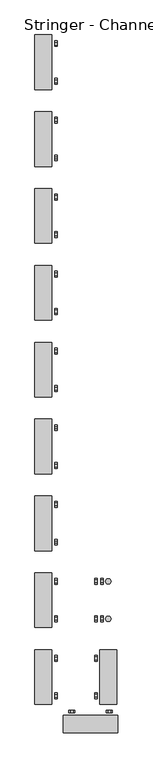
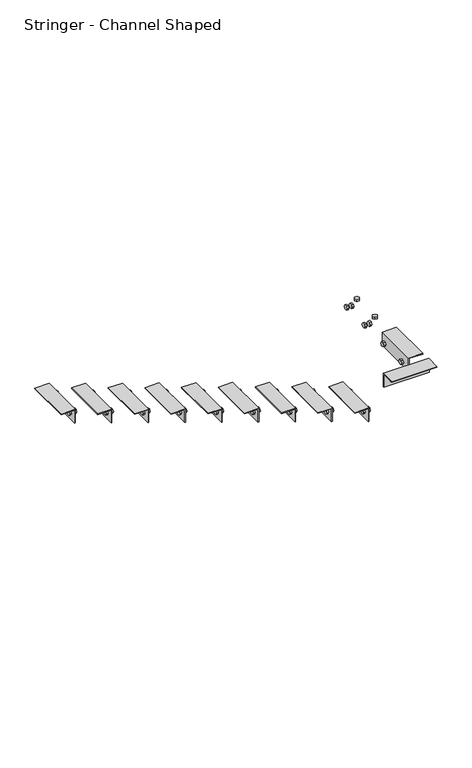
"""IFC4 building model written with IfcOpenShell, lengths in millimetres: railing geometry, Stringer - Channel Shaped."""

from ifc_helpers import new_model, si_unit, frame, origin, place, context, project, spatial, polyline, outline, extrude, source, transform, mapped, element, save


def stringer_channel_shaped_80cb6676(model_context):
    return source(origin(), model_context, "Body", "SweptSolid", [
        extrude(outline(polyline([(-3480.8368266, 3578.225), (-3486.3360879, 3568.7), (-3497.3346105, 3568.7), (-3502.8338718, 3578.225), (-3497.3346105, 3587.75), (-3486.3360879, 3587.75), (-3480.8368266, 3578.225)])), frame((-35055.628433, 0.0, 0.0), z_axis=(1.0, 0.0, 0.0), x_axis=(0.0, 1.0, 0.0)), (0.0, 0.0, 1.0), 9.525),
        extrude(outline(polyline([(-3341.1368266, 3578.225), (-3346.6360879, 3568.7), (-3357.6346105, 3568.7), (-3363.1338718, 3578.225), (-3357.6346105, 3587.75), (-3346.6360879, 3587.75), (-3341.1368266, 3578.225)])), frame((-35055.628433, 0.0, 0.0), z_axis=(1.0, 0.0, 0.0), x_axis=(0.0, 1.0, 0.0)), (0.0, 0.0, 1.0), 9.525),
        extrude(outline(polyline([(-3480.8368266, 3578.225), (-3486.3360879, 3568.7), (-3497.3346105, 3568.7), (-3502.8338718, 3578.225), (-3497.3346105, 3587.75), (-3486.3360879, 3587.75), (-3480.8368266, 3578.225)])), frame((-35033.403433, 0.0, 0.0), z_axis=(1.0, 0.0, 0.0), x_axis=(0.0, 1.0, 0.0)), (0.0, 0.0, 1.0), 9.525),
        extrude(outline(polyline([(-3341.1368266, 3578.225), (-3346.6360879, 3568.7), (-3357.6346105, 3568.7), (-3363.1338718, 3578.225), (-3357.6346105, 3587.75), (-3346.6360879, 3587.75), (-3341.1368266, 3578.225)])), frame((-35033.403433, 0.0, 0.0), z_axis=(1.0, 0.0, 0.0), x_axis=(0.0, 1.0, 0.0)), (0.0, 0.0, 1.0), 9.525),
        extrude(outline(polyline([(-35015.8269556, -3491.8353492), (-35010.3276943, -3482.3103492), (-34999.3291717, -3482.3103492), (-34993.8299104, -3491.8353492), (-34999.3291717, -3501.3603492), (-35010.3276943, -3501.3603492), (-35015.8269556, -3491.8353492)])), frame((0.0, 0.0, 3597.275), z_axis=(0.0, 0.0, 1.0), x_axis=(1.0, 0.0, 0.0)), (0.0, 0.0, 1.0), 9.525),
        extrude(outline(polyline([(-35015.8269556, -3352.1353492), (-35010.3276943, -3342.6103492), (-34999.3291717, -3342.6103492), (-34993.8299104, -3352.1353492), (-34999.3291717, -3361.6603492), (-35010.3276943, -3361.6603492), (-35015.8269556, -3352.1353492)])), frame((0.0, 0.0, 3597.275), z_axis=(0.0, 0.0, 1.0), x_axis=(1.0, 0.0, 0.0)), (0.0, 0.0, 1.0), 9.525),
        extrude(outline(polyline([(3546.475, -35033.403433), (3606.8, -35033.403433), (3606.8, -34973.078433), (3609.975, -34973.078433), (3609.975, -35036.578433), (3546.475, -35036.578433), (3546.475, -35033.403433)])), frame((0.0, -3809.3353492, 0.0), z_axis=(0.0, 1.0, 0.0), x_axis=(0.0, 0.0, 1.0)), (0.0, 0.0, 1.0), 203.2),
        extrude(outline(polyline([(-3766.5868266, 3578.225), (-3772.0860879, 3568.7), (-3783.0846105, 3568.7), (-3788.5838718, 3578.225), (-3783.0846105, 3587.75), (-3772.0860879, 3587.75), (-3766.5868266, 3578.225)])), frame((-35055.628433, 0.0, 0.0), z_axis=(1.0, 0.0, 0.0), x_axis=(0.0, 1.0, 0.0)), (0.0, 0.0, 1.0), 9.525),
        extrude(outline(polyline([(-3626.8868266, 3578.225), (-3632.3860879, 3568.7), (-3643.3846105, 3568.7), (-3648.8838718, 3578.225), (-3643.3846105, 3587.75), (-3632.3860879, 3587.75), (-3626.8868266, 3578.225)])), frame((-35055.628433, 0.0, 0.0), z_axis=(1.0, 0.0, 0.0), x_axis=(0.0, 1.0, 0.0)), (0.0, 0.0, 1.0), 9.525),
        extrude(outline(polyline([(-3766.5868266, 3578.225), (-3772.0860879, 3568.7), (-3783.0846105, 3568.7), (-3788.5838718, 3578.225), (-3783.0846105, 3587.75), (-3772.0860879, 3587.75), (-3766.5868266, 3578.225)])), frame((-35033.403433, 0.0, 0.0), z_axis=(1.0, 0.0, 0.0), x_axis=(0.0, 1.0, 0.0)), (0.0, 0.0, 1.0), 9.525),
        extrude(outline(polyline([(-3626.8868266, 3578.225), (-3632.3860879, 3568.7), (-3643.3846105, 3568.7), (-3648.8838718, 3578.225), (-3643.3846105, 3587.75), (-3632.3860879, 3587.75), (-3626.8868266, 3578.225)])), frame((-35033.403433, 0.0, 0.0), z_axis=(1.0, 0.0, 0.0), x_axis=(0.0, 1.0, 0.0)), (0.0, 0.0, 1.0), 9.525),
        extrude(outline(polyline([(-35015.8269556, -3777.5853492), (-35010.3276943, -3768.0603492), (-34999.3291717, -3768.0603492), (-34993.8299104, -3777.5853492), (-34999.3291717, -3787.1103492), (-35010.3276943, -3787.1103492), (-35015.8269556, -3777.5853492)])), frame((0.0, 0.0, 3597.275), z_axis=(0.0, 0.0, 1.0), x_axis=(1.0, 0.0, 0.0)), (0.0, 0.0, 1.0), 9.525),
        extrude(outline(polyline([(-35015.8269556, -3637.8853492), (-35010.3276943, -3628.3603492), (-34999.3291717, -3628.3603492), (-34993.8299104, -3637.8853492), (-34999.3291717, -3647.4103492), (-35010.3276943, -3647.4103492), (-35015.8269556, -3637.8853492)])), frame((0.0, 0.0, 3597.275), z_axis=(0.0, 0.0, 1.0), x_axis=(1.0, 0.0, 0.0)), (0.0, 0.0, 1.0), 9.525),
        extrude(outline(polyline([(-3853.7853492, 3546.475), (-3853.7853492, 3606.8), (-3914.1103492, 3606.8), (-3914.1103492, 3609.975), (-3850.6103492, 3609.975), (-3850.6103492, 3546.475), (-3853.7853492, 3546.475)])), frame((-35173.103433, 0.0, 0.0), z_axis=(1.0, 0.0, 0.0), x_axis=(0.0, 1.0, 0.0)), (0.0, 0.0, 1.0), 203.2),
        extrude(outline(polyline([(3578.225, -35130.3549104), (3587.75, -35135.8541717), (3587.75, -35146.8526943), (3578.225, -35152.3519556), (3568.7, -35146.8526943), (3568.7, -35135.8541717), (3578.225, -35130.3549104)])), frame((0.0, -3841.0853492, 0.0), z_axis=(0.0, 1.0, 0.0), x_axis=(0.0, 0.0, 1.0)), (0.0, 0.0, 1.0), 9.525),
        extrude(outline(polyline([(3578.225, -34990.6549104), (3587.75, -34996.1541717), (3587.75, -35007.1526943), (3578.225, -35012.6519556), (3568.7, -35007.1526943), (3568.7, -34996.1541717), (3578.225, -34990.6549104)])), frame((0.0, -3841.0853492, 0.0), z_axis=(0.0, 1.0, 0.0), x_axis=(0.0, 0.0, 1.0)), (0.0, 0.0, 1.0), 9.525),
        extrude(outline(polyline([(3578.225, -35130.3549104), (3587.75, -35135.8541717), (3587.75, -35146.8526943), (3578.225, -35152.3519556), (3568.7, -35146.8526943), (3568.7, -35135.8541717), (3578.225, -35130.3549104)])), frame((0.0, -3863.3103492, 0.0), z_axis=(0.0, 1.0, 0.0), x_axis=(0.0, 0.0, 1.0)), (0.0, 0.0, 1.0), 9.525),
        extrude(outline(polyline([(3578.225, -34990.6549104), (3587.75, -34996.1541717), (3587.75, -35007.1526943), (3578.225, -35012.6519556), (3568.7, -35007.1526943), (3568.7, -34996.1541717), (3578.225, -34990.6549104)])), frame((0.0, -3863.3103492, 0.0), z_axis=(0.0, 1.0, 0.0), x_axis=(0.0, 0.0, 1.0)), (0.0, 0.0, 1.0), 9.525),
        extrude(outline(polyline([(-35141.353433, -3871.3618266), (-35131.828433, -3876.8610879), (-35131.828433, -3887.8596105), (-35141.353433, -3893.3588718), (-35150.878433, -3887.8596105), (-35150.878433, -3876.8610879), (-35141.353433, -3871.3618266)])), frame((0.0, 0.0, 3597.275), z_axis=(0.0, 0.0, 1.0), x_axis=(1.0, 0.0, 0.0)), (0.0, 0.0, 1.0), 9.525),
        extrude(outline(polyline([(-35001.653433, -3871.3618266), (-34992.128433, -3876.8610879), (-34992.128433, -3887.8596105), (-35001.653433, -3893.3588718), (-35011.178433, -3887.8596105), (-35011.178433, -3876.8610879), (-35001.653433, -3871.3618266)])), frame((0.0, 0.0, 3597.275), z_axis=(0.0, 0.0, 1.0), x_axis=(1.0, 0.0, 0.0)), (0.0, 0.0, 1.0), 9.525),
        extrude(outline(polyline([(3372.3035714, -35214.378433), (3435.8035714, -35214.378433), (3435.8035714, -35277.878433), (3432.6285714, -35277.878433), (3432.6285714, -35217.553433), (3372.3035714, -35217.553433), (3372.3035714, -35214.378433)])), frame((0.0, -3809.3353492, 0.0), z_axis=(0.0, 1.0, 0.0), x_axis=(0.0, 0.0, 1.0)), (0.0, 0.0, 1.0), 203.2),
        extrude(outline(polyline([(-3648.8838718, 3404.0535714), (-3643.3846105, 3413.5785714), (-3632.3860879, 3413.5785714), (-3626.8868266, 3404.0535714), (-3632.3860879, 3394.5285714), (-3643.3846105, 3394.5285714), (-3648.8838718, 3404.0535714)])), frame((-35204.853433, 0.0, 0.0), z_axis=(1.0, 0.0, 0.0), x_axis=(0.0, 1.0, 0.0)), (0.0, 0.0, 1.0), 9.525),
        extrude(outline(polyline([(-3788.5838718, 3404.0535714), (-3783.0846105, 3413.5785714), (-3772.0860879, 3413.5785714), (-3766.5868266, 3404.0535714), (-3772.0860879, 3394.5285714), (-3783.0846105, 3394.5285714), (-3788.5838718, 3404.0535714)])), frame((-35204.853433, 0.0, 0.0), z_axis=(1.0, 0.0, 0.0), x_axis=(0.0, 1.0, 0.0)), (0.0, 0.0, 1.0), 9.525),
        extrude(outline(polyline([(-3648.8838718, 3404.0535714), (-3643.3846105, 3413.5785714), (-3632.3860879, 3413.5785714), (-3626.8868266, 3404.0535714), (-3632.3860879, 3394.5285714), (-3643.3846105, 3394.5285714), (-3648.8838718, 3404.0535714)])), frame((-35227.078433, 0.0, 0.0), z_axis=(1.0, 0.0, 0.0), x_axis=(0.0, 1.0, 0.0)), (0.0, 0.0, 1.0), 9.525),
        extrude(outline(polyline([(-3788.5838718, 3404.0535714), (-3783.0846105, 3413.5785714), (-3772.0860879, 3413.5785714), (-3766.5868266, 3404.0535714), (-3772.0860879, 3394.5285714), (-3783.0846105, 3394.5285714), (-3788.5838718, 3404.0535714)])), frame((-35227.078433, 0.0, 0.0), z_axis=(1.0, 0.0, 0.0), x_axis=(0.0, 1.0, 0.0)), (0.0, 0.0, 1.0), 9.525),
        extrude(outline(polyline([(-35235.1299104, -3637.8853492), (-35240.6291717, -3647.4103492), (-35251.6276943, -3647.4103492), (-35257.1269556, -3637.8853492), (-35251.6276943, -3628.3603492), (-35240.6291717, -3628.3603492), (-35235.1299104, -3637.8853492)])), frame((0.0, 0.0, 3423.1035714), z_axis=(0.0, 0.0, 1.0), x_axis=(1.0, 0.0, 0.0)), (0.0, 0.0, 1.0), 9.525),
        extrude(outline(polyline([(-35235.1299104, -3777.5853492), (-35240.6291717, -3787.1103492), (-35251.6276943, -3787.1103492), (-35257.1269556, -3777.5853492), (-35251.6276943, -3768.0603492), (-35240.6291717, -3768.0603492), (-35235.1299104, -3777.5853492)])), frame((0.0, 0.0, 3423.1035714), z_axis=(0.0, 0.0, 1.0), x_axis=(1.0, 0.0, 0.0)), (0.0, 0.0, 1.0), 9.525),
        extrude(outline(polyline([(3198.1321429, -35214.378433), (3261.6321429, -35214.378433), (3261.6321429, -35277.878433), (3258.4571429, -35277.878433), (3258.4571429, -35217.553433), (3198.1321429, -35217.553433), (3198.1321429, -35214.378433)])), frame((0.0, -3523.5853492, 0.0), z_axis=(0.0, 1.0, 0.0), x_axis=(0.0, 0.0, 1.0)), (0.0, 0.0, 1.0), 203.2),
        extrude(outline(polyline([(-3363.1338718, 3229.8821429), (-3357.6346105, 3239.4071429), (-3346.6360879, 3239.4071429), (-3341.1368266, 3229.8821429), (-3346.6360879, 3220.3571429), (-3357.6346105, 3220.3571429), (-3363.1338718, 3229.8821429)])), frame((-35204.853433, 0.0, 0.0), z_axis=(1.0, 0.0, 0.0), x_axis=(0.0, 1.0, 0.0)), (0.0, 0.0, 1.0), 9.525),
        extrude(outline(polyline([(-3502.8338718, 3229.8821429), (-3497.3346105, 3239.4071429), (-3486.3360879, 3239.4071429), (-3480.8368266, 3229.8821429), (-3486.3360879, 3220.3571429), (-3497.3346105, 3220.3571429), (-3502.8338718, 3229.8821429)])), frame((-35204.853433, 0.0, 0.0), z_axis=(1.0, 0.0, 0.0), x_axis=(0.0, 1.0, 0.0)), (0.0, 0.0, 1.0), 9.525),
        extrude(outline(polyline([(-3363.1338718, 3229.8821429), (-3357.6346105, 3239.4071429), (-3346.6360879, 3239.4071429), (-3341.1368266, 3229.8821429), (-3346.6360879, 3220.3571429), (-3357.6346105, 3220.3571429), (-3363.1338718, 3229.8821429)])), frame((-35227.078433, 0.0, 0.0), z_axis=(1.0, 0.0, 0.0), x_axis=(0.0, 1.0, 0.0)), (0.0, 0.0, 1.0), 9.525),
        extrude(outline(polyline([(-3502.8338718, 3229.8821429), (-3497.3346105, 3239.4071429), (-3486.3360879, 3239.4071429), (-3480.8368266, 3229.8821429), (-3486.3360879, 3220.3571429), (-3497.3346105, 3220.3571429), (-3502.8338718, 3229.8821429)])), frame((-35227.078433, 0.0, 0.0), z_axis=(1.0, 0.0, 0.0), x_axis=(0.0, 1.0, 0.0)), (0.0, 0.0, 1.0), 9.525),
        extrude(outline(polyline([(-35235.1299104, -3352.1353492), (-35240.6291717, -3361.6603492), (-35251.6276943, -3361.6603492), (-35257.1269556, -3352.1353492), (-35251.6276943, -3342.6103492), (-35240.6291717, -3342.6103492), (-35235.1299104, -3352.1353492)])), frame((0.0, 0.0, 3248.9321429), z_axis=(0.0, 0.0, 1.0), x_axis=(1.0, 0.0, 0.0)), (0.0, 0.0, 1.0), 9.525),
        extrude(outline(polyline([(-35235.1299104, -3491.8353492), (-35240.6291717, -3501.3603492), (-35251.6276943, -3501.3603492), (-35257.1269556, -3491.8353492), (-35251.6276943, -3482.3103492), (-35240.6291717, -3482.3103492), (-35235.1299104, -3491.8353492)])), frame((0.0, 0.0, 3248.9321429), z_axis=(0.0, 0.0, 1.0), x_axis=(1.0, 0.0, 0.0)), (0.0, 0.0, 1.0), 9.525),
        extrude(outline(polyline([(3023.9607143, -35214.378433), (3087.4607143, -35214.378433), (3087.4607143, -35277.878433), (3084.2857143, -35277.878433), (3084.2857143, -35217.553433), (3023.9607143, -35217.553433), (3023.9607143, -35214.378433)])), frame((0.0, -3237.8353492, 0.0), z_axis=(0.0, 1.0, 0.0), x_axis=(0.0, 0.0, 1.0)), (0.0, 0.0, 1.0), 203.2),
        extrude(outline(polyline([(-3077.3838718, 3055.7107143), (-3071.8846105, 3065.2357143), (-3060.8860879, 3065.2357143), (-3055.3868266, 3055.7107143), (-3060.8860879, 3046.1857143), (-3071.8846105, 3046.1857143), (-3077.3838718, 3055.7107143)])), frame((-35204.853433, 0.0, 0.0), z_axis=(1.0, 0.0, 0.0), x_axis=(0.0, 1.0, 0.0)), (0.0, 0.0, 1.0), 9.525),
        extrude(outline(polyline([(-3217.0838718, 3055.7107143), (-3211.5846105, 3065.2357143), (-3200.5860879, 3065.2357143), (-3195.0868266, 3055.7107143), (-3200.5860879, 3046.1857143), (-3211.5846105, 3046.1857143), (-3217.0838718, 3055.7107143)])), frame((-35204.853433, 0.0, 0.0), z_axis=(1.0, 0.0, 0.0), x_axis=(0.0, 1.0, 0.0)), (0.0, 0.0, 1.0), 9.525),
        extrude(outline(polyline([(-3077.3838718, 3055.7107143), (-3071.8846105, 3065.2357143), (-3060.8860879, 3065.2357143), (-3055.3868266, 3055.7107143), (-3060.8860879, 3046.1857143), (-3071.8846105, 3046.1857143), (-3077.3838718, 3055.7107143)])), frame((-35227.078433, 0.0, 0.0), z_axis=(1.0, 0.0, 0.0), x_axis=(0.0, 1.0, 0.0)), (0.0, 0.0, 1.0), 9.525),
        extrude(outline(polyline([(-3217.0838718, 3055.7107143), (-3211.5846105, 3065.2357143), (-3200.5860879, 3065.2357143), (-3195.0868266, 3055.7107143), (-3200.5860879, 3046.1857143), (-3211.5846105, 3046.1857143), (-3217.0838718, 3055.7107143)])), frame((-35227.078433, 0.0, 0.0), z_axis=(1.0, 0.0, 0.0), x_axis=(0.0, 1.0, 0.0)), (0.0, 0.0, 1.0), 9.525),
        extrude(outline(polyline([(-35235.1299104, -3066.3853492), (-35240.6291717, -3075.9103492), (-35251.6276943, -3075.9103492), (-35257.1269556, -3066.3853492), (-35251.6276943, -3056.8603492), (-35240.6291717, -3056.8603492), (-35235.1299104, -3066.3853492)])), frame((0.0, 0.0, 3074.7607143), z_axis=(0.0, 0.0, 1.0), x_axis=(1.0, 0.0, 0.0)), (0.0, 0.0, 1.0), 9.525),
        extrude(outline(polyline([(-35235.1299104, -3206.0853492), (-35240.6291717, -3215.6103492), (-35251.6276943, -3215.6103492), (-35257.1269556, -3206.0853492), (-35251.6276943, -3196.5603492), (-35240.6291717, -3196.5603492), (-35235.1299104, -3206.0853492)])), frame((0.0, 0.0, 3074.7607143), z_axis=(0.0, 0.0, 1.0), x_axis=(1.0, 0.0, 0.0)), (0.0, 0.0, 1.0), 9.525),
        extrude(outline(polyline([(2849.7892857, -35214.378433), (2913.2892857, -35214.378433), (2913.2892857, -35277.878433), (2910.1142857, -35277.878433), (2910.1142857, -35217.553433), (2849.7892857, -35217.553433), (2849.7892857, -35214.378433)])), frame((0.0, -2952.0853492, 0.0), z_axis=(0.0, 1.0, 0.0), x_axis=(0.0, 0.0, 1.0)), (0.0, 0.0, 1.0), 203.2),
        extrude(outline(polyline([(-2791.6338718, 2881.5392857), (-2786.1346105, 2891.0642857), (-2775.1360879, 2891.0642857), (-2769.6368266, 2881.5392857), (-2775.1360879, 2872.0142857), (-2786.1346105, 2872.0142857), (-2791.6338718, 2881.5392857)])), frame((-35204.853433, 0.0, 0.0), z_axis=(1.0, 0.0, 0.0), x_axis=(0.0, 1.0, 0.0)), (0.0, 0.0, 1.0), 9.525),
        extrude(outline(polyline([(-2931.3338718, 2881.5392857), (-2925.8346105, 2891.0642857), (-2914.8360879, 2891.0642857), (-2909.3368266, 2881.5392857), (-2914.8360879, 2872.0142857), (-2925.8346105, 2872.0142857), (-2931.3338718, 2881.5392857)])), frame((-35204.853433, 0.0, 0.0), z_axis=(1.0, 0.0, 0.0), x_axis=(0.0, 1.0, 0.0)), (0.0, 0.0, 1.0), 9.525),
        extrude(outline(polyline([(-2791.6338718, 2881.5392857), (-2786.1346105, 2891.0642857), (-2775.1360879, 2891.0642857), (-2769.6368266, 2881.5392857), (-2775.1360879, 2872.0142857), (-2786.1346105, 2872.0142857), (-2791.6338718, 2881.5392857)])), frame((-35227.078433, 0.0, 0.0), z_axis=(1.0, 0.0, 0.0), x_axis=(0.0, 1.0, 0.0)), (0.0, 0.0, 1.0), 9.525),
        extrude(outline(polyline([(-2931.3338718, 2881.5392857), (-2925.8346105, 2891.0642857), (-2914.8360879, 2891.0642857), (-2909.3368266, 2881.5392857), (-2914.8360879, 2872.0142857), (-2925.8346105, 2872.0142857), (-2931.3338718, 2881.5392857)])), frame((-35227.078433, 0.0, 0.0), z_axis=(1.0, 0.0, 0.0), x_axis=(0.0, 1.0, 0.0)), (0.0, 0.0, 1.0), 9.525),
        extrude(outline(polyline([(-35235.1299104, -2780.6353492), (-35240.6291717, -2790.1603492), (-35251.6276943, -2790.1603492), (-35257.1269556, -2780.6353492), (-35251.6276943, -2771.1103492), (-35240.6291717, -2771.1103492), (-35235.1299104, -2780.6353492)])), frame((0.0, 0.0, 2900.5892857), z_axis=(0.0, 0.0, 1.0), x_axis=(1.0, 0.0, 0.0)), (0.0, 0.0, 1.0), 9.525),
        extrude(outline(polyline([(-35235.1299104, -2920.3353492), (-35240.6291717, -2929.8603492), (-35251.6276943, -2929.8603492), (-35257.1269556, -2920.3353492), (-35251.6276943, -2910.8103492), (-35240.6291717, -2910.8103492), (-35235.1299104, -2920.3353492)])), frame((0.0, 0.0, 2900.5892857), z_axis=(0.0, 0.0, 1.0), x_axis=(1.0, 0.0, 0.0)), (0.0, 0.0, 1.0), 9.525),
        extrude(outline(polyline([(2675.6178571, -35214.378433), (2739.1178571, -35214.378433), (2739.1178571, -35277.878433), (2735.9428571, -35277.878433), (2735.9428571, -35217.553433), (2675.6178571, -35217.553433), (2675.6178571, -35214.378433)])), frame((0.0, -2666.3353492, 0.0), z_axis=(0.0, 1.0, 0.0), x_axis=(0.0, 0.0, 1.0)), (0.0, 0.0, 1.0), 203.2),
        extrude(outline(polyline([(-2505.8838718, 2707.3678571), (-2500.3846105, 2716.8928571), (-2489.3860879, 2716.8928571), (-2483.8868266, 2707.3678571), (-2489.3860879, 2697.8428571), (-2500.3846105, 2697.8428571), (-2505.8838718, 2707.3678571)])), frame((-35204.853433, 0.0, 0.0), z_axis=(1.0, 0.0, 0.0), x_axis=(0.0, 1.0, 0.0)), (0.0, 0.0, 1.0), 9.525),
        extrude(outline(polyline([(-2645.5838718, 2707.3678571), (-2640.0846105, 2716.8928571), (-2629.0860879, 2716.8928571), (-2623.5868266, 2707.3678571), (-2629.0860879, 2697.8428571), (-2640.0846105, 2697.8428571), (-2645.5838718, 2707.3678571)])), frame((-35204.853433, 0.0, 0.0), z_axis=(1.0, 0.0, 0.0), x_axis=(0.0, 1.0, 0.0)), (0.0, 0.0, 1.0), 9.525),
        extrude(outline(polyline([(-2505.8838718, 2707.3678571), (-2500.3846105, 2716.8928571), (-2489.3860879, 2716.8928571), (-2483.8868266, 2707.3678571), (-2489.3860879, 2697.8428571), (-2500.3846105, 2697.8428571), (-2505.8838718, 2707.3678571)])), frame((-35227.078433, 0.0, 0.0), z_axis=(1.0, 0.0, 0.0), x_axis=(0.0, 1.0, 0.0)), (0.0, 0.0, 1.0), 9.525),
        extrude(outline(polyline([(-2645.5838718, 2707.3678571), (-2640.0846105, 2716.8928571), (-2629.0860879, 2716.8928571), (-2623.5868266, 2707.3678571), (-2629.0860879, 2697.8428571), (-2640.0846105, 2697.8428571), (-2645.5838718, 2707.3678571)])), frame((-35227.078433, 0.0, 0.0), z_axis=(1.0, 0.0, 0.0), x_axis=(0.0, 1.0, 0.0)), (0.0, 0.0, 1.0), 9.525),
        extrude(outline(polyline([(-35235.1299104, -2494.8853492), (-35240.6291717, -2504.4103492), (-35251.6276943, -2504.4103492), (-35257.1269556, -2494.8853492), (-35251.6276943, -2485.3603492), (-35240.6291717, -2485.3603492), (-35235.1299104, -2494.8853492)])), frame((0.0, 0.0, 2726.4178571), z_axis=(0.0, 0.0, 1.0), x_axis=(1.0, 0.0, 0.0)), (0.0, 0.0, 1.0), 9.525),
        extrude(outline(polyline([(-35235.1299104, -2634.5853492), (-35240.6291717, -2644.1103492), (-35251.6276943, -2644.1103492), (-35257.1269556, -2634.5853492), (-35251.6276943, -2625.0603492), (-35240.6291717, -2625.0603492), (-35235.1299104, -2634.5853492)])), frame((0.0, 0.0, 2726.4178571), z_axis=(0.0, 0.0, 1.0), x_axis=(1.0, 0.0, 0.0)), (0.0, 0.0, 1.0), 9.525),
        extrude(outline(polyline([(2501.4464286, -35214.378433), (2564.9464286, -35214.378433), (2564.9464286, -35277.878433), (2561.7714286, -35277.878433), (2561.7714286, -35217.553433), (2501.4464286, -35217.553433), (2501.4464286, -35214.378433)])), frame((0.0, -2380.5853492, 0.0), z_axis=(0.0, 1.0, 0.0), x_axis=(0.0, 0.0, 1.0)), (0.0, 0.0, 1.0), 203.2),
        extrude(outline(polyline([(-2220.1338718, 2533.1964286), (-2214.6346105, 2542.7214286), (-2203.6360879, 2542.7214286), (-2198.1368266, 2533.1964286), (-2203.6360879, 2523.6714286), (-2214.6346105, 2523.6714286), (-2220.1338718, 2533.1964286)])), frame((-35204.853433, 0.0, 0.0), z_axis=(1.0, 0.0, 0.0), x_axis=(0.0, 1.0, 0.0)), (0.0, 0.0, 1.0), 9.525),
        extrude(outline(polyline([(-2359.8338718, 2533.1964286), (-2354.3346105, 2542.7214286), (-2343.3360879, 2542.7214286), (-2337.8368266, 2533.1964286), (-2343.3360879, 2523.6714286), (-2354.3346105, 2523.6714286), (-2359.8338718, 2533.1964286)])), frame((-35204.853433, 0.0, 0.0), z_axis=(1.0, 0.0, 0.0), x_axis=(0.0, 1.0, 0.0)), (0.0, 0.0, 1.0), 9.525),
        extrude(outline(polyline([(-2220.1338718, 2533.1964286), (-2214.6346105, 2542.7214286), (-2203.6360879, 2542.7214286), (-2198.1368266, 2533.1964286), (-2203.6360879, 2523.6714286), (-2214.6346105, 2523.6714286), (-2220.1338718, 2533.1964286)])), frame((-35227.078433, 0.0, 0.0), z_axis=(1.0, 0.0, 0.0), x_axis=(0.0, 1.0, 0.0)), (0.0, 0.0, 1.0), 9.525),
        extrude(outline(polyline([(-2359.8338718, 2533.1964286), (-2354.3346105, 2542.7214286), (-2343.3360879, 2542.7214286), (-2337.8368266, 2533.1964286), (-2343.3360879, 2523.6714286), (-2354.3346105, 2523.6714286), (-2359.8338718, 2533.1964286)])), frame((-35227.078433, 0.0, 0.0), z_axis=(1.0, 0.0, 0.0), x_axis=(0.0, 1.0, 0.0)), (0.0, 0.0, 1.0), 9.525),
        extrude(outline(polyline([(-35235.1299104, -2209.1353492), (-35240.6291717, -2218.6603492), (-35251.6276943, -2218.6603492), (-35257.1269556, -2209.1353492), (-35251.6276943, -2199.6103492), (-35240.6291717, -2199.6103492), (-35235.1299104, -2209.1353492)])), frame((0.0, 0.0, 2552.2464286), z_axis=(0.0, 0.0, 1.0), x_axis=(1.0, 0.0, 0.0)), (0.0, 0.0, 1.0), 9.525),
        extrude(outline(polyline([(-35235.1299104, -2348.8353492), (-35240.6291717, -2358.3603492), (-35251.6276943, -2358.3603492), (-35257.1269556, -2348.8353492), (-35251.6276943, -2339.3103492), (-35240.6291717, -2339.3103492), (-35235.1299104, -2348.8353492)])), frame((0.0, 0.0, 2552.2464286), z_axis=(0.0, 0.0, 1.0), x_axis=(1.0, 0.0, 0.0)), (0.0, 0.0, 1.0), 9.525),
        extrude(outline(polyline([(2327.275, -35214.378433), (2390.775, -35214.378433), (2390.775, -35277.878433), (2387.6, -35277.878433), (2387.6, -35217.553433), (2327.275, -35217.553433), (2327.275, -35214.378433)])), frame((0.0, -2094.8353492, 0.0), z_axis=(0.0, 1.0, 0.0), x_axis=(0.0, 0.0, 1.0)), (0.0, 0.0, 1.0), 203.2),
        extrude(outline(polyline([(-1934.3838718, 2359.025), (-1928.8846105, 2368.55), (-1917.8860879, 2368.55), (-1912.3868266, 2359.025), (-1917.8860879, 2349.5), (-1928.8846105, 2349.5), (-1934.3838718, 2359.025)])), frame((-35204.853433, 0.0, 0.0), z_axis=(1.0, 0.0, 0.0), x_axis=(0.0, 1.0, 0.0)), (0.0, 0.0, 1.0), 9.525),
        extrude(outline(polyline([(-2074.0838718, 2359.025), (-2068.5846105, 2368.55), (-2057.5860879, 2368.55), (-2052.0868266, 2359.025), (-2057.5860879, 2349.5), (-2068.5846105, 2349.5), (-2074.0838718, 2359.025)])), frame((-35204.853433, 0.0, 0.0), z_axis=(1.0, 0.0, 0.0), x_axis=(0.0, 1.0, 0.0)), (0.0, 0.0, 1.0), 9.525),
        extrude(outline(polyline([(-1934.3838718, 2359.025), (-1928.8846105, 2368.55), (-1917.8860879, 2368.55), (-1912.3868266, 2359.025), (-1917.8860879, 2349.5), (-1928.8846105, 2349.5), (-1934.3838718, 2359.025)])), frame((-35227.078433, 0.0, 0.0), z_axis=(1.0, 0.0, 0.0), x_axis=(0.0, 1.0, 0.0)), (0.0, 0.0, 1.0), 9.525),
        extrude(outline(polyline([(-2074.0838718, 2359.025), (-2068.5846105, 2368.55), (-2057.5860879, 2368.55), (-2052.0868266, 2359.025), (-2057.5860879, 2349.5), (-2068.5846105, 2349.5), (-2074.0838718, 2359.025)])), frame((-35227.078433, 0.0, 0.0), z_axis=(1.0, 0.0, 0.0), x_axis=(0.0, 1.0, 0.0)), (0.0, 0.0, 1.0), 9.525),
        extrude(outline(polyline([(-35235.1299104, -1923.3853492), (-35240.6291717, -1932.9103492), (-35251.6276943, -1932.9103492), (-35257.1269556, -1923.3853492), (-35251.6276943, -1913.8603492), (-35240.6291717, -1913.8603492), (-35235.1299104, -1923.3853492)])), frame((0.0, 0.0, 2378.075), z_axis=(0.0, 0.0, 1.0), x_axis=(1.0, 0.0, 0.0)), (0.0, 0.0, 1.0), 9.525),
        extrude(outline(polyline([(-35235.1299104, -2063.0853492), (-35240.6291717, -2072.6103492), (-35251.6276943, -2072.6103492), (-35257.1269556, -2063.0853492), (-35251.6276943, -2053.5603492), (-35240.6291717, -2053.5603492), (-35235.1299104, -2063.0853492)])), frame((0.0, 0.0, 2378.075), z_axis=(0.0, 0.0, 1.0), x_axis=(1.0, 0.0, 0.0)), (0.0, 0.0, 1.0), 9.525),
        extrude(outline(polyline([(2153.1035714, -35214.378433), (2216.6035714, -35214.378433), (2216.6035714, -35277.878433), (2213.4285714, -35277.878433), (2213.4285714, -35217.553433), (2153.1035714, -35217.553433), (2153.1035714, -35214.378433)])), frame((0.0, -1809.0853492, 0.0), z_axis=(0.0, 1.0, 0.0), x_axis=(0.0, 0.0, 1.0)), (0.0, 0.0, 1.0), 203.2),
        extrude(outline(polyline([(-1648.6338718, 2184.8535714), (-1643.1346105, 2194.3785714), (-1632.1360879, 2194.3785714), (-1626.6368266, 2184.8535714), (-1632.1360879, 2175.3285714), (-1643.1346105, 2175.3285714), (-1648.6338718, 2184.8535714)])), frame((-35204.853433, 0.0, 0.0), z_axis=(1.0, 0.0, 0.0), x_axis=(0.0, 1.0, 0.0)), (0.0, 0.0, 1.0), 9.525),
        extrude(outline(polyline([(-1788.3338718, 2184.8535714), (-1782.8346105, 2194.3785714), (-1771.8360879, 2194.3785714), (-1766.3368266, 2184.8535714), (-1771.8360879, 2175.3285714), (-1782.8346105, 2175.3285714), (-1788.3338718, 2184.8535714)])), frame((-35204.853433, 0.0, 0.0), z_axis=(1.0, 0.0, 0.0), x_axis=(0.0, 1.0, 0.0)), (0.0, 0.0, 1.0), 9.525),
        extrude(outline(polyline([(-1648.6338718, 2184.8535714), (-1643.1346105, 2194.3785714), (-1632.1360879, 2194.3785714), (-1626.6368266, 2184.8535714), (-1632.1360879, 2175.3285714), (-1643.1346105, 2175.3285714), (-1648.6338718, 2184.8535714)])), frame((-35227.078433, 0.0, 0.0), z_axis=(1.0, 0.0, 0.0), x_axis=(0.0, 1.0, 0.0)), (0.0, 0.0, 1.0), 9.525),
        extrude(outline(polyline([(-1788.3338718, 2184.8535714), (-1782.8346105, 2194.3785714), (-1771.8360879, 2194.3785714), (-1766.3368266, 2184.8535714), (-1771.8360879, 2175.3285714), (-1782.8346105, 2175.3285714), (-1788.3338718, 2184.8535714)])), frame((-35227.078433, 0.0, 0.0), z_axis=(1.0, 0.0, 0.0), x_axis=(0.0, 1.0, 0.0)), (0.0, 0.0, 1.0), 9.525),
        extrude(outline(polyline([(-35235.1299104, -1637.6353492), (-35240.6291717, -1647.1603492), (-35251.6276943, -1647.1603492), (-35257.1269556, -1637.6353492), (-35251.6276943, -1628.1103492), (-35240.6291717, -1628.1103492), (-35235.1299104, -1637.6353492)])), frame((0.0, 0.0, 2203.9035714), z_axis=(0.0, 0.0, 1.0), x_axis=(1.0, 0.0, 0.0)), (0.0, 0.0, 1.0), 9.525),
        extrude(outline(polyline([(-35235.1299104, -1777.3353492), (-35240.6291717, -1786.8603492), (-35251.6276943, -1786.8603492), (-35257.1269556, -1777.3353492), (-35251.6276943, -1767.8103492), (-35240.6291717, -1767.8103492), (-35235.1299104, -1777.3353492)])), frame((0.0, 0.0, 2203.9035714), z_axis=(0.0, 0.0, 1.0), x_axis=(1.0, 0.0, 0.0)), (0.0, 0.0, 1.0), 9.525),
        extrude(outline(polyline([(1978.9321429, -35214.378433), (2042.4321429, -35214.378433), (2042.4321429, -35277.878433), (2039.2571429, -35277.878433), (2039.2571429, -35217.553433), (1978.9321429, -35217.553433), (1978.9321429, -35214.378433)])), frame((0.0, -1523.3353492, 0.0), z_axis=(0.0, 1.0, 0.0), x_axis=(0.0, 0.0, 1.0)), (0.0, 0.0, 1.0), 203.2),
        extrude(outline(polyline([(-1362.8838718, 2010.6821429), (-1357.3846105, 2020.2071429), (-1346.3860879, 2020.2071429), (-1340.8868266, 2010.6821429), (-1346.3860879, 2001.1571429), (-1357.3846105, 2001.1571429), (-1362.8838718, 2010.6821429)])), frame((-35204.853433, 0.0, 0.0), z_axis=(1.0, 0.0, 0.0), x_axis=(0.0, 1.0, 0.0)), (0.0, 0.0, 1.0), 9.525),
        extrude(outline(polyline([(-1502.5838718, 2010.6821429), (-1497.0846105, 2020.2071429), (-1486.0860879, 2020.2071429), (-1480.5868266, 2010.6821429), (-1486.0860879, 2001.1571429), (-1497.0846105, 2001.1571429), (-1502.5838718, 2010.6821429)])), frame((-35204.853433, 0.0, 0.0), z_axis=(1.0, 0.0, 0.0), x_axis=(0.0, 1.0, 0.0)), (0.0, 0.0, 1.0), 9.525),
        extrude(outline(polyline([(-1362.8838718, 2010.6821429), (-1357.3846105, 2020.2071429), (-1346.3860879, 2020.2071429), (-1340.8868266, 2010.6821429), (-1346.3860879, 2001.1571429), (-1357.3846105, 2001.1571429), (-1362.8838718, 2010.6821429)])), frame((-35227.078433, 0.0, 0.0), z_axis=(1.0, 0.0, 0.0), x_axis=(0.0, 1.0, 0.0)), (0.0, 0.0, 1.0), 9.525),
        extrude(outline(polyline([(-1502.5838718, 2010.6821429), (-1497.0846105, 2020.2071429), (-1486.0860879, 2020.2071429), (-1480.5868266, 2010.6821429), (-1486.0860879, 2001.1571429), (-1497.0846105, 2001.1571429), (-1502.5838718, 2010.6821429)])), frame((-35227.078433, 0.0, 0.0), z_axis=(1.0, 0.0, 0.0), x_axis=(0.0, 1.0, 0.0)), (0.0, 0.0, 1.0), 9.525),
        extrude(outline(polyline([(-35235.1299104, -1351.8853492), (-35240.6291717, -1361.4103492), (-35251.6276943, -1361.4103492), (-35257.1269556, -1351.8853492), (-35251.6276943, -1342.3603492), (-35240.6291717, -1342.3603492), (-35235.1299104, -1351.8853492)])), frame((0.0, 0.0, 2029.7321429), z_axis=(0.0, 0.0, 1.0), x_axis=(1.0, 0.0, 0.0)), (0.0, 0.0, 1.0), 9.525),
        extrude(outline(polyline([(-35235.1299104, -1491.5853492), (-35240.6291717, -1501.1103492), (-35251.6276943, -1501.1103492), (-35257.1269556, -1491.5853492), (-35251.6276943, -1482.0603492), (-35240.6291717, -1482.0603492), (-35235.1299104, -1491.5853492)])), frame((0.0, 0.0, 2029.7321429), z_axis=(0.0, 0.0, 1.0), x_axis=(1.0, 0.0, 0.0)), (0.0, 0.0, 1.0), 9.525),
    ])


if __name__ == "__main__":
    model = new_model("IFC4")
    model_context = context("Model", 3, world=origin())
    ifc_project = project(units=[si_unit("LENGTHUNIT", "METRE", prefix="MILLI")], contexts=[model_context])
    site = spatial("IfcSite", under=ifc_project)
    building = spatial("IfcBuilding", under=site)
    placement = place(None, origin())
    stringer_channel_shaped_shape = stringer_channel_shaped_80cb6676(model_context)
    element("IfcRailing", 1, ObjectType="Stringer - Channel Shaped", at=placement, inside=building, context=model_context, shape_type="MappedRepresentation", body=[
        mapped(stringer_channel_shaped_shape, transform((0.0, 0.0, 0.0), x_axis=(1.0, 0.0, 0.0), y_axis=(0.0, 1.0, 0.0), z_axis=(0.0, 0.0, 1.0))),
    ])
    save(model, "model.ifc")
